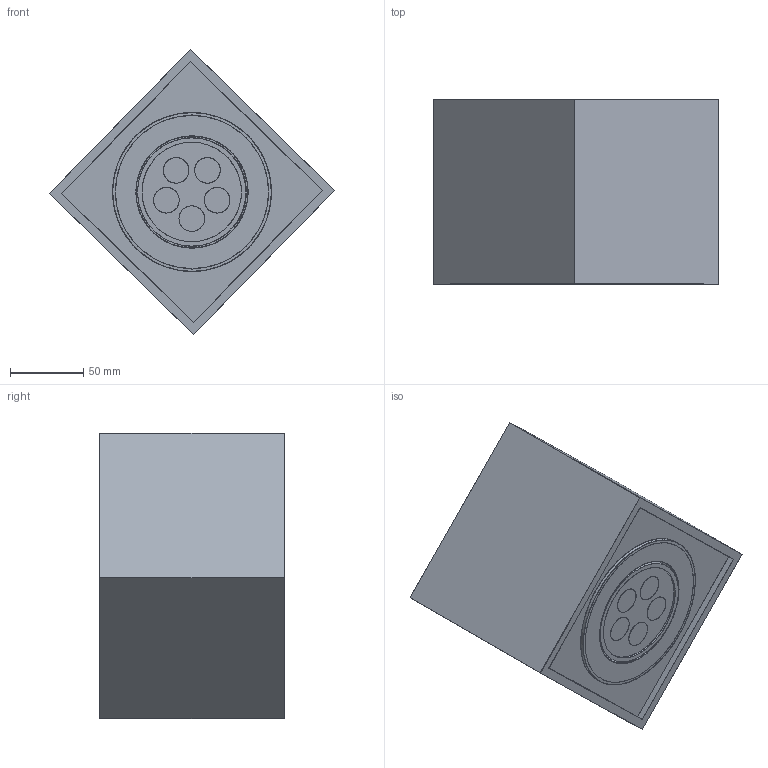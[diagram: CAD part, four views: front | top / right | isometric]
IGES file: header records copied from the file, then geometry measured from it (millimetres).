
Start section: SolidWorks IGES file using analytic representation for surfaces
Global section: file name: E:\3D lampy\Box LED\Box Led_6415,6421,6422,9630.IGS; native system: SolidWorks 2016; preprocessor: SolidWorks 2016; author: Asia; date: 170630.090648; units: millimetre
Bounding box: 195.06 x 126 x 195.06 mm (x, y, z)
Surface area: 282158.5 mm2 (no closed solid volume)
Topology: 0 solids, 0 shells, 516 faces, 7462 edges, 7452 vertices
Faces by surface type: revolution 323, bspline 193
